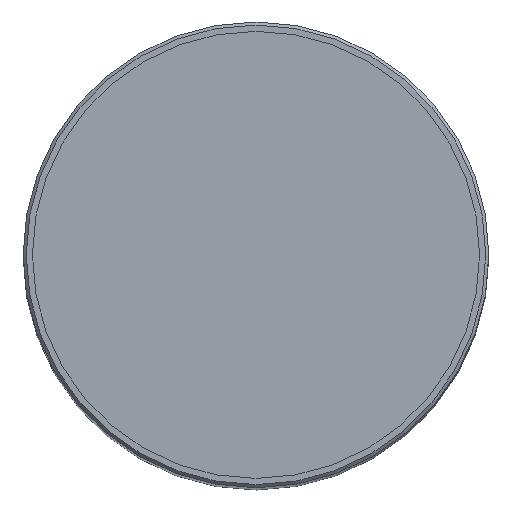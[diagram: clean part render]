
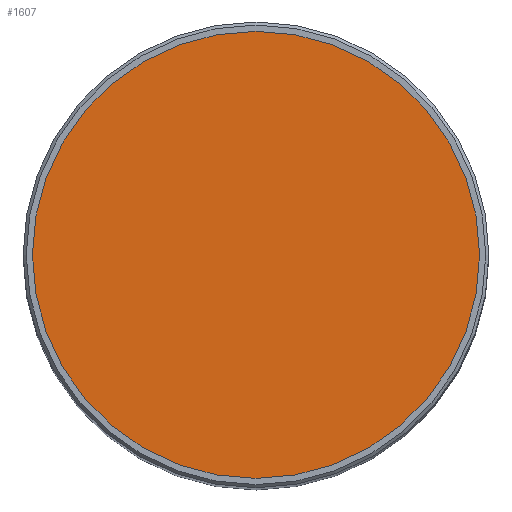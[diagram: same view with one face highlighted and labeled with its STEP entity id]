
A CAD part, top view. The second image highlights one B-rep face of the part: STEP entity #1607.
In plain terms, the highlighted planar face has unit normal (0, 0, 1) as drawn and (0, 1, 0) by its records, which use the part's own axes.
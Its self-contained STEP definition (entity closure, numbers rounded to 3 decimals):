
#152=PLANE('',#1989);
#302=FACE_OUTER_BOUND('',#424,.T.);
#424=EDGE_LOOP('',(#1472));
#668=CIRCLE('',#1990,7.2);
#814=VERTEX_POINT('',#3148);
#1034=EDGE_CURVE('',#814,#814,#668,.T.);
#1472=ORIENTED_EDGE('',*,*,#1034,.F.);
#1607=ADVANCED_FACE('',(#302),#152,.T.);
#1989=AXIS2_PLACEMENT_3D('',#3147,#2493,#2494);
#1990=AXIS2_PLACEMENT_3D('',#3149,#2495,#2496);
#2493=DIRECTION('center_axis',(0.,1.,0.));
#2494=DIRECTION('ref_axis',(0.,0.,1.));
#2495=DIRECTION('center_axis',(0.,-1.,0.));
#2496=DIRECTION('ref_axis',(1.,0.,0.));
#3147=CARTESIAN_POINT('Origin',(-7.2,50.712,0.));
#3148=CARTESIAN_POINT('',(7.2,50.712,0.));
#3149=CARTESIAN_POINT('Origin',(0.,50.712,0.));
